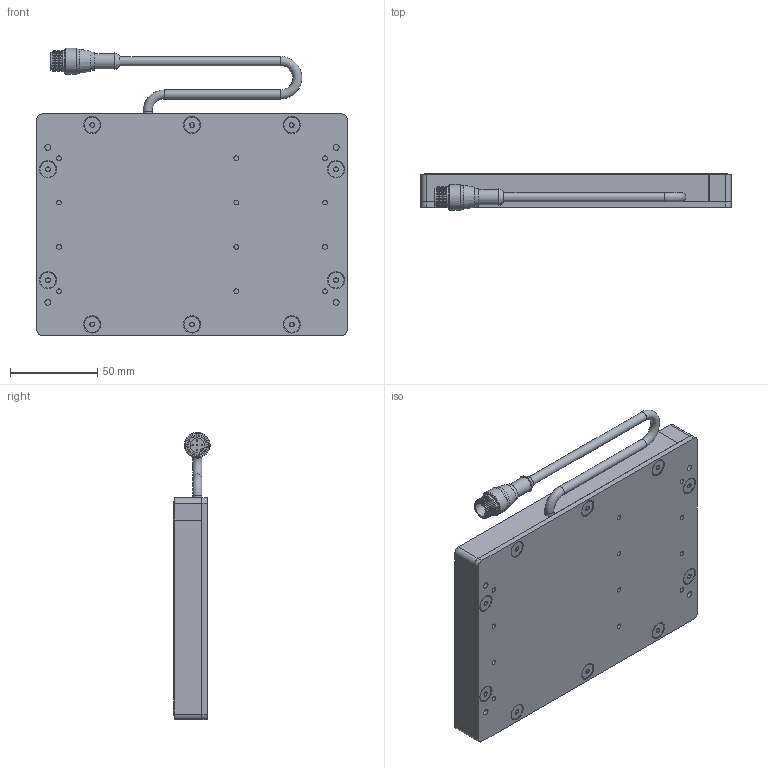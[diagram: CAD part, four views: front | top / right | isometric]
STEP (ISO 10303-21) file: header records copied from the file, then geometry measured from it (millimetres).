
FILE_DESCRIPTION (( 'STEP AP214' ), '1' );
FILE_NAME ('SBL46-XXX-WDC.STEP', '2026-04-17T19:05:40', ( '' ), ( '' ), 'SwSTEP 2.0', 'SolidWorks 2025', '' );
FILE_SCHEMA (( 'AUTOMOTIVE_DESIGN' ));
Length unit declared in the file: inch
Products named in the file (11): BackPlate BLYYXX_0406; WD-SBLYYXX_4x6; SBL46-XXX-WDC; MC Pigtail 24; 8-32 x 0.375 FHCS (92210A192)_92210A192; SBL3 to 18in rail_06in No CG; SBL3 to 18in rail_06in rail; SC Pigtail Complete 18_5pin; M12 Connector 4,5 and 8 pin_RS4.5T; SBL3 to 18in rail_04in No CG; Hex Standoff .375 x 8-32
Assembly tree (29 placements, depth 3):
  SBL46-XXX-WDC
    BackPlate BLYYXX_0406
    SBL3 to 18in rail_06in rail
    SBL3 to 18in rail_06in No CG
    SBL3 to 18in rail_04in No CG  x2
    SC Pigtail Complete 18_5pin
      MC Pigtail 24
      M12 Connector 4,5 and 8 pin_RS4.5T
    WD-SBLYYXX_4x6
    Hex Standoff .375 x 8-32  x10
    8-32 x 0.375 FHCS (92210A192)_92210A192  x10
Bounding box: 177.8 x 20.74 x 164.53 mm (x, y, z)
Volume: 230975.6 mm3; surface area: 142514.7 mm2
Topology: 28 solids, 28 shells, 740 faces, 1722 edges, 1059 vertices
Faces by surface type: plane 297, cylinder 216, cone 169, bspline 30, torus 23, sphere 5
Full cylindrical faces by diameter (mm): 0.762 x5, 2.705 x12, 3.454 x14, 4.496 x20, 5.207 x3, 6.604 x8, 6.858 x10, 8.382 x1, 8.636 x1, 9.119 x10, 10.16 x1, 10.541 x1, 11.938 x1, 13.716 x2, 14.732 x1
Entity records: 13457 total; most frequent: CARTESIAN_POINT 3700, DIRECTION 1821, ORIENTED_EDGE 1462, AXIS2_PLACEMENT_3D 747, EDGE_CURVE 731, EDGE_LOOP 563, VERTEX_POINT 538, FACE_OUTER_BOUND 424
